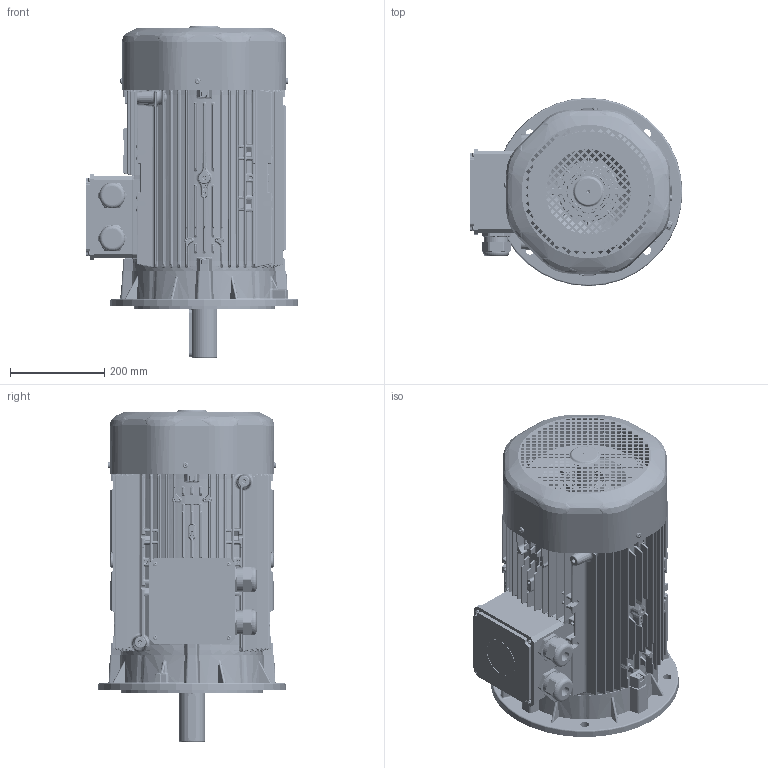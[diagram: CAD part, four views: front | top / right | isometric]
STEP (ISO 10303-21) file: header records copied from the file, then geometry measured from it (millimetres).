
FILE_DESCRIPTION(/* description */ (''),/* implementation_level */ '2;1');
FILE_NAME(/* name */ 'OUTLOOK VIEW QH200 FA B5 FF350 SPL.stp',/* time_stamp */ '2021-09-13T15:03:07+03:00',/* author */ (''),/* organization */ (''),/* preprocessor_version */ 'ST-DEVELOPER v16',/* originating_system */ 'SIEMENS PLM Software NX 11.0',/* authorisation */ '');
FILE_SCHEMA (('AUTOMOTIVE_DESIGN { 1 0 10303 214 3 1 1 1 }'));
Products named in the file (1): 26062CE45B9Cd7ff
Bounding box: 451.84 x 399.69 x 704.5 mm (x, y, z)
Volume: 10708997.5 mm3; surface area: 3399312.7 mm2
Topology: 69 solids, 79 shells, 13380 faces, 33481 edges, 20007 vertices
Faces by surface type: cylinder 4465, bspline 3577, plane 3501, sphere 685, cone 649, torus 503
Full cylindrical faces by diameter (mm): 2.5 x2, 4 x5, 4.3 x4, 4.918 x4, 5.5 x3, 5.6 x4, 6 x4, 6.3 x1, 6.5 x4, 7 x1, 7.6 x1, 8 x1, 8.376 x8, 9.444 x3, 10 x11, 10.5 x4, 12 x4, 16 x8, 18.5 x4, 20 x1, 20.5 x4, 21 x1, 22 x2, 43.4 x1, 48.17 x4, 48.38 x2, 49.6 x1, 50 x3, 50.2 x1, 50.3 x1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
Entity records: 480608 total; most frequent: CARTESIAN_POINT 182559, ORIENTED_EDGE 64672, DIRECTION 57287, EDGE_CURVE 32336, AXIS2_PLACEMENT_3D 22334, VERTEX_POINT 19855, EDGE_LOOP 15011, ADVANCED_FACE 13375
